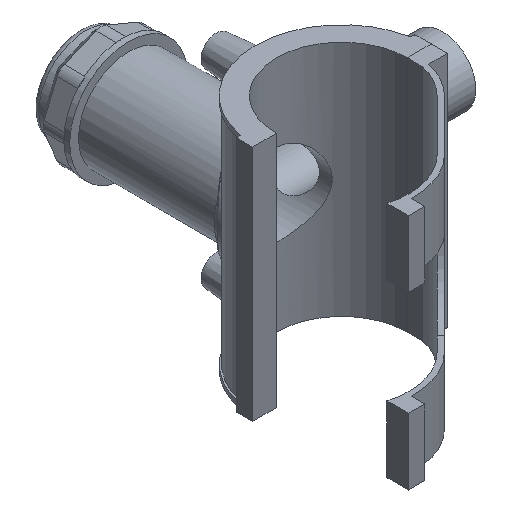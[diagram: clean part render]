
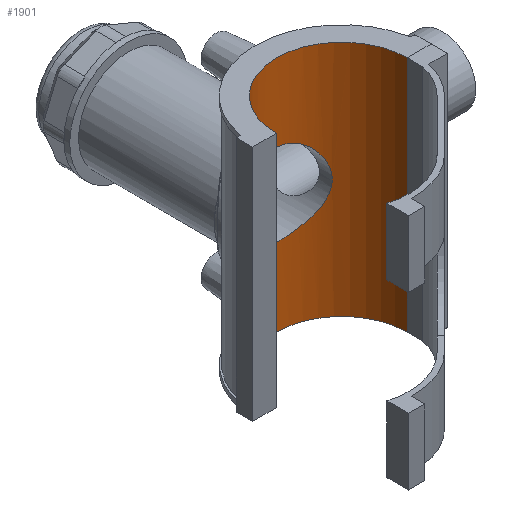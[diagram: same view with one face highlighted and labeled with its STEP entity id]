
A CAD part, isometric view. The second image highlights one B-rep face of the part: STEP entity #1901.
In plain terms, the highlighted cylindrical face has radius 32.55 mm (diameter 65.1 mm), a partial arc.
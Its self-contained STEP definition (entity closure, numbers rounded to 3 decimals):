
#49=FACE_BOUND('',#624,.T.);
#50=B_SPLINE_CURVE_WITH_KNOTS('',3,(#2728,#2729,#2730,#2731,#2732,#2733,
#2734,#2735,#2736,#2737,#2738,#2739,#2740,#2741,#2742,#2743,#2744,#2745,
#2746,#2747,#2748,#2749,#2750,#2751,#2752,#2753,#2754,#2755,#2756,#2757,
#2758,#2759,#2760,#2761,#2762,#2763,#2764,#2765,#2766,#2767,#2768,#2769,
#2770,#2771,#2772,#2773,#2774,#2775,#2776,#2777),.UNSPECIFIED.,.F.,.F.,
(4,2,2,2,2,2,2,2,2,2,2,2,2,2,2,2,2,2,2,2,2,2,2,2,4),(0.,0.402,
0.803,1.205,1.607,2.005,2.404,
2.802,3.201,3.599,3.997,4.396,
4.794,5.196,5.598,5.999,6.401,
6.803,7.204,7.606,8.008,8.406,
8.805,9.203,9.602),.UNSPECIFIED.);
#51=B_SPLINE_CURVE_WITH_KNOTS('',3,(#2778,#2779,#2780,#2781,#2782,#2783,
#2784,#2785,#2786,#2787,#2788,#2789,#2790,#2791,#2792,#2793,#2794,#2795),
 .UNSPECIFIED.,.F.,.F.,(4,2,2,2,2,2,2,2,4),(9.602,10.,
10.398,10.797,11.195,11.597,11.999,
12.4,12.802),.UNSPECIFIED.);
#173=LINE('',#3698,#330);
#174=LINE('',#3702,#331);
#330=VECTOR('',#2560,10.);
#331=VECTOR('',#2563,10.);
#414=CYLINDRICAL_SURFACE('',#2109,32.55);
#503=FACE_OUTER_BOUND('',#623,.T.);
#623=EDGE_LOOP('',(#1608,#1609,#1610,#1611));
#624=EDGE_LOOP('',(#1612,#1613));
#721=CIRCLE('',#2106,32.55);
#722=CIRCLE('',#2108,32.55);
#741=VERTEX_POINT('',#2725);
#742=VERTEX_POINT('',#2727);
#871=VERTEX_POINT('',#3692);
#873=VERTEX_POINT('',#3696);
#874=VERTEX_POINT('',#3700);
#875=VERTEX_POINT('',#3701);
#925=EDGE_CURVE('',#742,#741,#50,.T.);
#926=EDGE_CURVE('',#741,#742,#51,.T.);
#1122=EDGE_CURVE('',#871,#873,#173,.T.);
#1123=EDGE_CURVE('',#874,#875,#174,.T.);
#1129=EDGE_CURVE('',#871,#875,#721,.T.);
#1130=EDGE_CURVE('',#874,#873,#722,.T.);
#1608=ORIENTED_EDGE('',*,*,#1123,.T.);
#1609=ORIENTED_EDGE('',*,*,#1129,.F.);
#1610=ORIENTED_EDGE('',*,*,#1122,.T.);
#1611=ORIENTED_EDGE('',*,*,#1130,.F.);
#1612=ORIENTED_EDGE('',*,*,#925,.T.);
#1613=ORIENTED_EDGE('',*,*,#926,.T.);
#1901=ADVANCED_FACE('',(#503,#49),#414,.F.);
#2106=AXIS2_PLACEMENT_3D('',#3711,#2571,#2572);
#2108=AXIS2_PLACEMENT_3D('',#3713,#2575,#2576);
#2109=AXIS2_PLACEMENT_3D('',#3716,#2579,#2580);
#2560=DIRECTION('',(0.,0.,-1.));
#2563=DIRECTION('',(0.,0.,1.));
#2571=DIRECTION('center_axis',(0.,0.,-1.));
#2572=DIRECTION('ref_axis',(-1.,0.,0.));
#2575=DIRECTION('center_axis',(0.,0.,1.));
#2576=DIRECTION('ref_axis',(-1.,0.,0.));
#2579=DIRECTION('center_axis',(0.,0.,1.));
#2580=DIRECTION('ref_axis',(-1.,0.,0.));
#2725=CARTESIAN_POINT('',(0.,32.55,-20.507));
#2727=CARTESIAN_POINT('',(-20.507,25.278,0.));
#2728=CARTESIAN_POINT('Ctrl Pts',(-20.507,25.278,0.));
#2729=CARTESIAN_POINT('Ctrl Pts',(-20.507,25.278,1.339));
#2730=CARTESIAN_POINT('Ctrl Pts',(-20.373,25.388,2.704));
#2731=CARTESIAN_POINT('Ctrl Pts',(-19.834,25.812,5.385));
#2732=CARTESIAN_POINT('Ctrl Pts',(-19.428,26.124,6.703));
#2733=CARTESIAN_POINT('Ctrl Pts',(-18.373,26.877,9.209));
#2734=CARTESIAN_POINT('Ctrl Pts',(-17.723,27.316,10.401));
#2735=CARTESIAN_POINT('Ctrl Pts',(-16.234,28.226,12.6));
#2736=CARTESIAN_POINT('Ctrl Pts',(-15.393,28.697,13.607));
#2737=CARTESIAN_POINT('Ctrl Pts',(-13.614,29.583,15.386));
#2738=CARTESIAN_POINT('Ctrl Pts',(-12.611,30.031,16.225));
#2739=CARTESIAN_POINT('Ctrl Pts',(-10.411,30.863,17.717));
#2740=CARTESIAN_POINT('Ctrl Pts',(-9.215,31.245,18.37));
#2741=CARTESIAN_POINT('Ctrl Pts',(-6.698,31.88,19.43));
#2742=CARTESIAN_POINT('Ctrl Pts',(-5.374,32.132,19.837));
#2743=CARTESIAN_POINT('Ctrl Pts',(-2.69,32.467,20.375));
#2744=CARTESIAN_POINT('Ctrl Pts',(-1.328,32.55,20.507));
#2745=CARTESIAN_POINT('Ctrl Pts',(1.328,32.55,20.507));
#2746=CARTESIAN_POINT('Ctrl Pts',(2.69,32.467,20.375));
#2747=CARTESIAN_POINT('Ctrl Pts',(5.374,32.132,19.837));
#2748=CARTESIAN_POINT('Ctrl Pts',(6.698,31.88,19.43));
#2749=CARTESIAN_POINT('Ctrl Pts',(9.215,31.245,18.37));
#2750=CARTESIAN_POINT('Ctrl Pts',(10.411,30.863,17.717));
#2751=CARTESIAN_POINT('Ctrl Pts',(12.611,30.031,16.225));
#2752=CARTESIAN_POINT('Ctrl Pts',(13.614,29.583,15.386));
#2753=CARTESIAN_POINT('Ctrl Pts',(15.393,28.697,13.607));
#2754=CARTESIAN_POINT('Ctrl Pts',(16.234,28.226,12.6));
#2755=CARTESIAN_POINT('Ctrl Pts',(17.723,27.316,10.401));
#2756=CARTESIAN_POINT('Ctrl Pts',(18.373,26.877,9.209));
#2757=CARTESIAN_POINT('Ctrl Pts',(19.428,26.124,6.703));
#2758=CARTESIAN_POINT('Ctrl Pts',(19.834,25.812,5.385));
#2759=CARTESIAN_POINT('Ctrl Pts',(20.373,25.388,2.704));
#2760=CARTESIAN_POINT('Ctrl Pts',(20.507,25.278,1.339));
#2761=CARTESIAN_POINT('Ctrl Pts',(20.507,25.278,-1.339));
#2762=CARTESIAN_POINT('Ctrl Pts',(20.373,25.388,-2.704));
#2763=CARTESIAN_POINT('Ctrl Pts',(19.834,25.812,-5.385));
#2764=CARTESIAN_POINT('Ctrl Pts',(19.428,26.124,-6.703));
#2765=CARTESIAN_POINT('Ctrl Pts',(18.373,26.877,-9.209));
#2766=CARTESIAN_POINT('Ctrl Pts',(17.723,27.316,-10.401));
#2767=CARTESIAN_POINT('Ctrl Pts',(16.234,28.226,-12.6));
#2768=CARTESIAN_POINT('Ctrl Pts',(15.393,28.697,-13.607));
#2769=CARTESIAN_POINT('Ctrl Pts',(13.614,29.583,-15.386));
#2770=CARTESIAN_POINT('Ctrl Pts',(12.611,30.031,-16.225));
#2771=CARTESIAN_POINT('Ctrl Pts',(10.411,30.863,-17.717));
#2772=CARTESIAN_POINT('Ctrl Pts',(9.215,31.245,-18.37));
#2773=CARTESIAN_POINT('Ctrl Pts',(6.698,31.88,-19.43));
#2774=CARTESIAN_POINT('Ctrl Pts',(5.374,32.132,-19.837));
#2775=CARTESIAN_POINT('Ctrl Pts',(2.69,32.467,-20.375));
#2776=CARTESIAN_POINT('Ctrl Pts',(1.328,32.55,-20.507));
#2777=CARTESIAN_POINT('Ctrl Pts',(0.,32.55,-20.507));
#2778=CARTESIAN_POINT('Ctrl Pts',(0.,32.55,-20.507));
#2779=CARTESIAN_POINT('Ctrl Pts',(-1.328,32.55,-20.507));
#2780=CARTESIAN_POINT('Ctrl Pts',(-2.69,32.467,-20.375));
#2781=CARTESIAN_POINT('Ctrl Pts',(-5.374,32.132,-19.837));
#2782=CARTESIAN_POINT('Ctrl Pts',(-6.698,31.88,-19.43));
#2783=CARTESIAN_POINT('Ctrl Pts',(-9.215,31.245,-18.37));
#2784=CARTESIAN_POINT('Ctrl Pts',(-10.411,30.863,-17.717));
#2785=CARTESIAN_POINT('Ctrl Pts',(-12.611,30.031,-16.225));
#2786=CARTESIAN_POINT('Ctrl Pts',(-13.614,29.583,-15.386));
#2787=CARTESIAN_POINT('Ctrl Pts',(-15.393,28.697,-13.607));
#2788=CARTESIAN_POINT('Ctrl Pts',(-16.234,28.226,-12.6));
#2789=CARTESIAN_POINT('Ctrl Pts',(-17.723,27.316,-10.401));
#2790=CARTESIAN_POINT('Ctrl Pts',(-18.373,26.877,-9.209));
#2791=CARTESIAN_POINT('Ctrl Pts',(-19.428,26.124,-6.703));
#2792=CARTESIAN_POINT('Ctrl Pts',(-19.834,25.812,-5.385));
#2793=CARTESIAN_POINT('Ctrl Pts',(-20.373,25.388,-2.704));
#2794=CARTESIAN_POINT('Ctrl Pts',(-20.507,25.278,-1.339));
#2795=CARTESIAN_POINT('Ctrl Pts',(-20.507,25.278,0.));
#3692=CARTESIAN_POINT('',(-32.55,0.05,59.055));
#3696=CARTESIAN_POINT('',(-32.55,0.05,-59.055));
#3698=CARTESIAN_POINT('',(-32.55,0.05,0.));
#3700=CARTESIAN_POINT('',(32.55,0.05,-59.055));
#3701=CARTESIAN_POINT('',(32.55,0.05,59.055));
#3702=CARTESIAN_POINT('',(32.55,0.05,0.));
#3711=CARTESIAN_POINT('Origin',(0.,0.,59.055));
#3713=CARTESIAN_POINT('Origin',(0.,0.,-59.055));
#3716=CARTESIAN_POINT('Origin',(0.,0.,0.));
